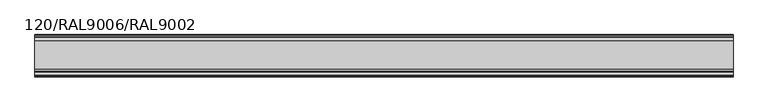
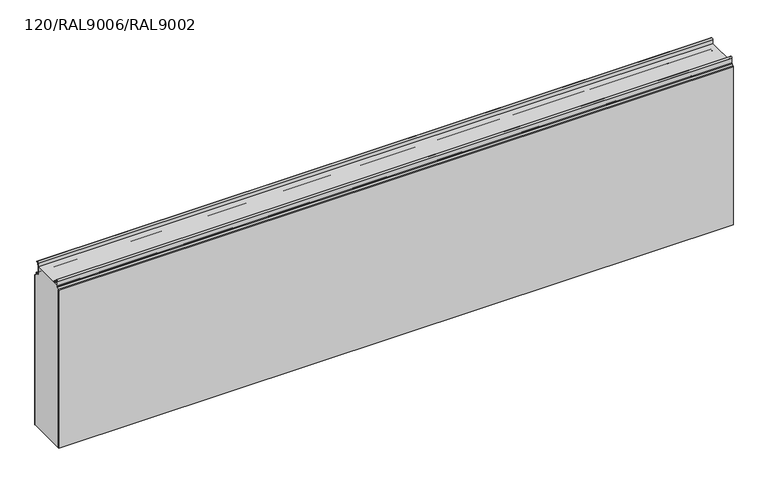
"""IFC4 building model written with IfcOpenShell, lengths in millimetres: plate geometry, TR_C_H_FHL_Panel_cut_TONGUE : 120/RAL9006/RAL9002."""

from ifc_helpers import new_model, si_unit, point, frame, frame_2d, origin, place, context, project, spatial, polyline, circle_curve, trimmed, segment, composite_curve, outline, extrude, source, transform, mapped, element, save


def plate_120_ral9006_ral9002_4380068a(model_context):
    return source(origin(), model_context, "Body", "SweptSolid", [
        extrude(outline(composite_curve([segment(polyline([(-17.4455763, 500.0), (-17.6, 498.2349288), (-17.6, 479.1)]), True, "CONTINUOUS"), segment(trimmed(circle_curve(frame_2d((-14.8, 479.1)), 2.8), [point((-17.6, 479.1))], [point((-14.8, 476.3))], True, "CARTESIAN"), True, "CONTINUOUS"), segment(polyline([(-14.8, 476.3), (-8.9, 476.3)]), True, "CONTINUOUS"), segment(trimmed(circle_curve(frame_2d((-8.9, 474.4)), 1.9), [point((-8.9, 476.3))], [point((-7.0, 474.4))], False, "CARTESIAN"), True, "CONTINUOUS"), segment(polyline([(-7.0, 474.4), (-7.0, 471.5838835)]), True, "CONTINUOUS"), segment(trimmed(circle_curve(frame_2d((-4.2, 471.5838835)), 2.8), [point((-7.0, 471.5838835))], [point((-6.179899, 469.6039845))], True, "CARTESIAN"), True, "CONTINUOUS"), segment(polyline([(-6.179899, 469.6039845), (-1.3564971, 464.7805826)]), True, "CONTINUOUS"), segment(trimmed(circle_curve(frame_2d((-2.7, 463.4370797)), 1.9), [point((-1.3564971, 464.7805826))], [point((-0.8, 463.4370797))], False, "CARTESIAN"), True, "CONTINUOUS"), segment(polyline([(-0.8, 463.4370797), (-0.8, 0.0), (-119.2, 0.0), (-119.2, 489.8218254)]), True, "CONTINUOUS"), segment(trimmed(circle_curve(frame_2d((-117.0, 489.8218254)), 2.2), [point((-119.2, 489.8218254))], [point((-118.5556349, 491.3774603))], False, "CARTESIAN"), True, "CONTINUOUS"), segment(polyline([(-118.5556349, 491.3774603), (-114.1665476, 495.7665476)]), True, "CONTINUOUS"), segment(trimmed(circle_curve(frame_2d((-116.5, 498.1)), 3.3), [point((-114.1665476, 495.7665476))], [point((-113.2, 498.1))], True, "CARTESIAN"), True, "CONTINUOUS"), segment(polyline([(-113.2, 498.1), (-113.2, 500.0), (-17.4455763, 500.0)]), True, "CONTINUOUS")], self_intersect=False)), frame((-990.0, 0.0, 0.0), z_axis=(1.0, 0.0, 0.0), x_axis=(0.0, 1.0, 0.0)), (0.0, 0.0, 1.0), 1980.0),
        extrude(outline(composite_curve([segment(trimmed(circle_curve(frame_2d((-2.7, 463.4370797)), 1.9), [point((-0.8, 463.4370797))], [point((-1.3564971, 464.7805826))], True, "CARTESIAN"), True, "CONTINUOUS"), segment(polyline([(-1.3564971, 464.7805826), (-6.179899, 469.6039845)]), True, "CONTINUOUS"), segment(trimmed(circle_curve(frame_2d((-4.2, 471.5838835)), 2.8), [point((-6.179899, 469.6039845))], [point((-7.0, 471.5838835))], False, "CARTESIAN"), True, "CONTINUOUS"), segment(polyline([(-7.0, 471.5838835), (-7.0, 474.4)]), True, "CONTINUOUS"), segment(trimmed(circle_curve(frame_2d((-8.9, 474.4)), 1.9), [point((-7.0, 474.4))], [point((-8.9, 476.3))], True, "CARTESIAN"), True, "CONTINUOUS"), segment(polyline([(-8.9, 476.3), (-14.8, 476.3)]), True, "CONTINUOUS"), segment(trimmed(circle_curve(frame_2d((-14.8, 479.1)), 2.8), [point((-14.8, 476.3))], [point((-17.6, 479.1))], False, "CARTESIAN"), True, "CONTINUOUS"), segment(polyline([(-17.6, 479.1), (-17.6, 498.2349288), (-16.5051936, 510.748623)]), True, "CONTINUOUS"), segment(trimmed(circle_curve(frame_2d((-12.5204148, 510.4)), 4.0), [point((-16.5051936, 510.748623))], [point((-8.7383405, 511.7022726))], False, "CARTESIAN"), True, "CONTINUOUS"), segment(polyline([(-8.7383405, 511.7022726), (-8.4287263, 510.8030877), (-9.1851412, 510.5426332), (-9.4947554, 511.4418181)]), True, "CONTINUOUS"), segment(trimmed(circle_curve(frame_2d((-12.5204148, 510.4)), 3.2), [point((-9.4947554, 511.4418181))], [point((-15.7082379, 510.6788984))], True, "CARTESIAN"), True, "CONTINUOUS"), segment(polyline([(-15.7082379, 510.6788984), (-16.8, 498.2), (-16.8, 479.1)]), True, "CONTINUOUS"), segment(trimmed(circle_curve(frame_2d((-14.8, 479.1)), 2.0), [point((-16.8, 479.1))], [point((-14.8, 477.1))], True, "CARTESIAN"), True, "CONTINUOUS"), segment(polyline([(-14.8, 477.1), (-8.9, 477.1)]), True, "CONTINUOUS"), segment(trimmed(circle_curve(frame_2d((-8.9, 474.4)), 2.7), [point((-8.9, 477.1))], [point((-6.2, 474.4))], False, "CARTESIAN"), True, "CONTINUOUS"), segment(polyline([(-6.2, 474.4), (-6.2, 471.5838835)]), True, "CONTINUOUS"), segment(trimmed(circle_curve(frame_2d((-4.2, 471.5838835)), 2.0), [point((-6.2, 471.5838835))], [point((-5.6142136, 470.1696699))], True, "CARTESIAN"), True, "CONTINUOUS"), segment(polyline([(-5.6142136, 470.1696699), (-0.7908117, 465.346268)]), True, "CONTINUOUS"), segment(trimmed(circle_curve(frame_2d((-2.7, 463.4370797)), 2.7), [point((-0.7908117, 465.346268))], [point((0.0, 463.4370797))], False, "CARTESIAN"), True, "CONTINUOUS"), segment(polyline([(0.0, 463.4370797), (0.0, 0.0), (-0.8, 0.0), (-0.8, 463.4370797)]), True, "CONTINUOUS")], self_intersect=False)), frame((-990.0, 0.0, 0.0), z_axis=(1.0, 0.0, 0.0), x_axis=(0.0, 1.0, 0.0)), (0.0, 0.0, 1.0), 1980.0),
        extrude(outline(composite_curve([segment(polyline([(-119.1213203, 491.9431458), (-114.732233, 496.332233)]), True, "CONTINUOUS"), segment(trimmed(circle_curve(frame_2d((-116.5, 498.1)), 2.5), [point((-114.732233, 496.332233))], [point((-114.0, 498.1))], True, "CARTESIAN"), True, "CONTINUOUS"), segment(polyline([(-114.0, 498.1), (-114.0, 512.85)]), True, "CONTINUOUS"), segment(trimmed(circle_curve(frame_2d((-110.75, 512.85)), 3.25), [point((-114.0, 512.85))], [point((-107.5493748, 513.4143566))], False, "CARTESIAN"), True, "CONTINUOUS"), segment(polyline([(-107.5493748, 513.4143566), (-106.8060618, 509.1988193)]), True, "CONTINUOUS"), segment(trimmed(circle_curve(frame_2d((-103.1130328, 509.85)), 3.75), [point((-106.8060618, 509.1988193))], [point((-103.1130328, 506.1))], True, "CARTESIAN"), True, "CONTINUOUS"), segment(polyline([(-103.1130328, 506.1), (-99.0, 506.1), (-99.0, 505.3), (-103.1130328, 505.3)]), True, "CONTINUOUS"), segment(trimmed(circle_curve(frame_2d((-103.1130328, 509.85)), 4.55), [point((-103.1130328, 505.3))], [point((-107.5939081, 509.0599008))], False, "CARTESIAN"), True, "CONTINUOUS"), segment(polyline([(-107.5939081, 509.0599008), (-108.337221, 513.275438)]), True, "CONTINUOUS"), segment(trimmed(circle_curve(frame_2d((-110.75, 512.85)), 2.45), [point((-108.337221, 513.275438))], [point((-113.2, 512.85))], True, "CARTESIAN"), True, "CONTINUOUS"), segment(polyline([(-113.2, 512.85), (-113.2, 498.1)]), True, "CONTINUOUS"), segment(trimmed(circle_curve(frame_2d((-116.5, 498.1)), 3.3), [point((-113.2, 498.1))], [point((-114.1665476, 495.7665476))], False, "CARTESIAN"), True, "CONTINUOUS"), segment(polyline([(-114.1665476, 495.7665476), (-118.5556349, 491.3774603)]), True, "CONTINUOUS"), segment(trimmed(circle_curve(frame_2d((-117.0, 489.8218254)), 2.2), [point((-118.5556349, 491.3774603))], [point((-119.2, 489.8218254))], True, "CARTESIAN"), True, "CONTINUOUS"), segment(polyline([(-119.2, 489.8218254), (-119.2, 0.0), (-120.0, 0.0), (-120.0, 489.8218254)]), True, "CONTINUOUS"), segment(trimmed(circle_curve(frame_2d((-117.0, 489.8218254)), 3.0), [point((-120.0, 489.8218254))], [point((-119.1213203, 491.9431458))], False, "CARTESIAN"), True, "CONTINUOUS")], self_intersect=False)), frame((-990.0, 0.0, 0.0), z_axis=(1.0, 0.0, 0.0), x_axis=(0.0, 1.0, 0.0)), (0.0, 0.0, 1.0), 1980.0),
    ])


if __name__ == "__main__":
    model = new_model("IFC4")
    model_context = context("Model", 3, world=origin())
    ifc_project = project(units=[si_unit("LENGTHUNIT", "METRE", prefix="MILLI")], contexts=[model_context])
    site = spatial("IfcSite", under=ifc_project)
    building = spatial("IfcBuilding", under=site)
    placement = place(None, origin())
    plate_120_ral9006_ral9002_shape = plate_120_ral9006_ral9002_4380068a(model_context)
    element("IfcPlate", 1, ObjectType="TR_C_H_FHL_Panel_cut_TONGUE : 120/RAL9006/RAL9002", at=placement, inside=building, context=model_context, shape_type="MappedRepresentation", body=[
        mapped(plate_120_ral9006_ral9002_shape, transform((0.0, 0.0, 0.0), x_axis=(1.0, 0.0, 0.0), y_axis=(0.0, 1.0, 0.0), z_axis=(0.0, 0.0, 1.0))),
    ])
    save(model, "model.ifc")
